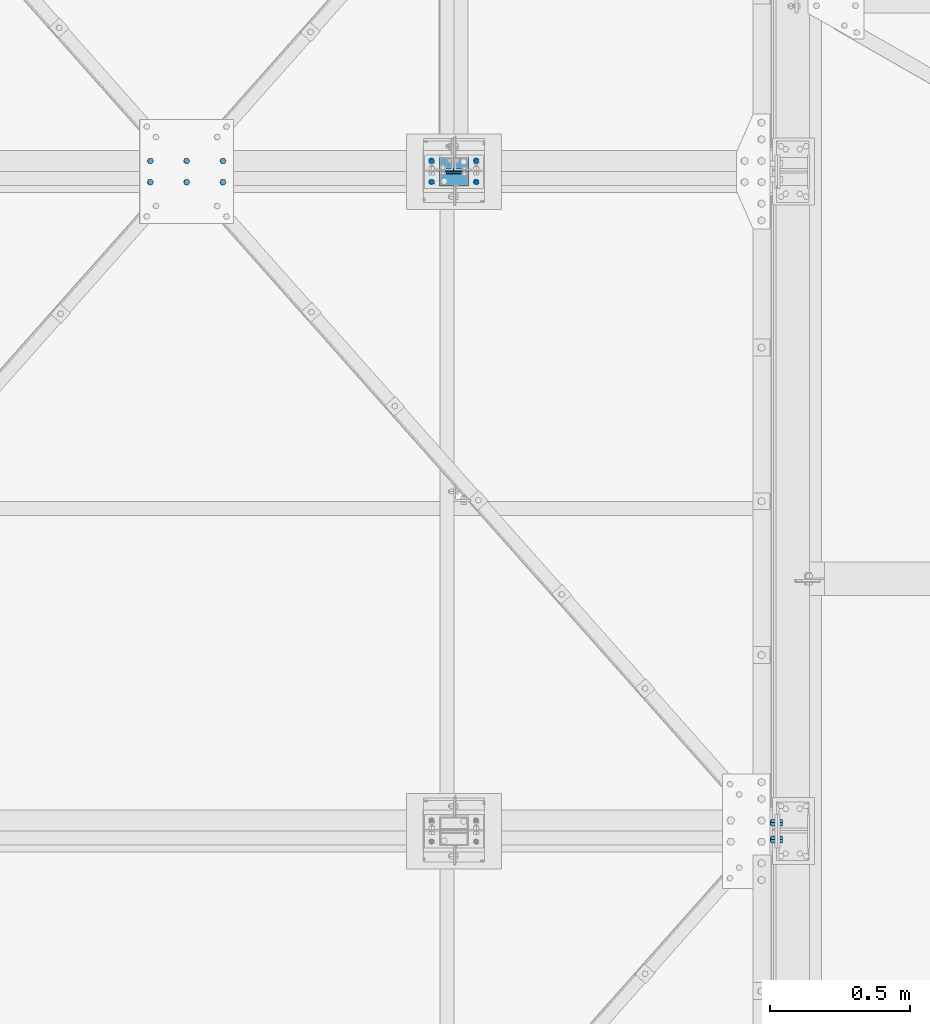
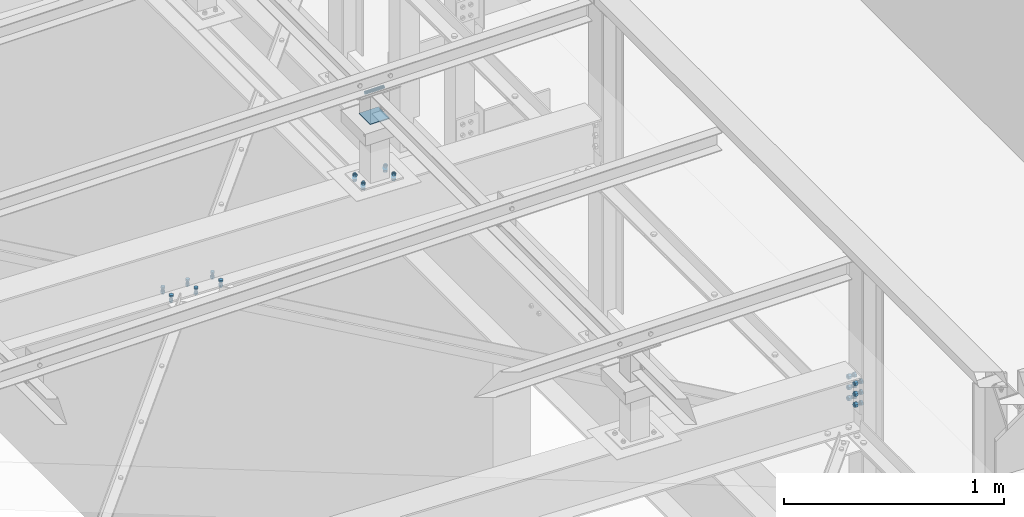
# One storey, part 359 of 3134: 6 mechanical fasteners, 4 elements without a shape of their own.
"""IFC2X3 building model written with IfcOpenShell, lengths in millimetres."""

from ifc_helpers import new_model, si_unit, frame, origin_with_axes, place, context, subcontext, project, spatial, faceted_brep, source, transform, mapped, material, type_object, element, aggregate, save


model = new_model("IFC2X3")

# Units and contexts
model_context = context("Model", 3, precision=1e-05, world=origin_with_axes())
body_context = subcontext(model_context, "Body", "Model", "MODEL_VIEW")
ifc_project = project(units=[si_unit("LENGTHUNIT", "METRE", prefix="MILLI"), si_unit("AREAUNIT", "SQUARE_METRE"), si_unit("VOLUMEUNIT", "CUBIC_METRE"), si_unit("MASSUNIT", "GRAM", prefix="KILO"), si_unit("TIMEUNIT", "SECOND"), si_unit("PLANEANGLEUNIT", "RADIAN"), si_unit("SOLIDANGLEUNIT", "STERADIAN"), si_unit("THERMODYNAMICTEMPERATUREUNIT", "DEGREE_CELSIUS"), si_unit("LUMINOUSINTENSITYUNIT", "LUMEN")], contexts=[model_context])

# Site, building, storey
site_placement = place(None, origin_with_axes())
site = spatial("IfcSite", under=ifc_project, at=site_placement, CompositionType="ELEMENT")
building_placement = place(site_placement, origin_with_axes())
building = spatial("IfcBuilding", under=site, at=building_placement, Name="Undefined", CompositionType="ELEMENT")
storey_placement = place(building_placement, origin_with_axes())
storey = spatial("IfcBuildingStorey", under=building, at=storey_placement, Name="Undefined", CompositionType="ELEMENT", Elevation=0.0)

# Assembly, mechanical fastener
assembly_1_placement = place(storey_placement, origin_with_axes())
assembly_1 = element("IfcElementAssembly", 1, at=assembly_1_placement, inside=storey, AssemblyPlace="NOTDEFINED", PredefinedType="RIGID_FRAME")
ifc_material_1 = material(Name="8.8")
mechanical_fastener_type = type_object("IfcMechanicalFastenerType", Name="Bolt assembly")
shared_shape_1 = source(origin_with_axes(), body_context, "Body", "Brep", [
    faceted_brep([(7.0, 13.0000253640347, 0.0), (6.06217782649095, 13.0000253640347, 3.50000000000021), (3.49999999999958, 13.0000253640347, 6.06217782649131), (-7.25435187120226e-13, 13.0000253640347, 7.0), (-3.50000000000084, 13.0000253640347, 6.06217782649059), (-6.06217782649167, 13.0000253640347, 3.49999999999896), (-7.0, 13.0000253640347, -1.45087037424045e-12), (-6.06217782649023, 13.0000253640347, -3.50000000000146), (-3.49999999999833, 13.0000253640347, -6.06217782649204), (2.1685340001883e-12, 13.0000253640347, -7.0), (3.50000000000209, 13.0000253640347, -6.06217782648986), (6.0621778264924, 13.0000253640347, -3.4999999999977), (6.0621778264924, 15.0999999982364, -3.4999999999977), (3.50000000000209, 15.0999999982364, -6.06217782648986), (2.1685340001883e-12, 15.0999999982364, -7.0), (-3.49999999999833, 15.0999999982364, -6.06217782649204), (-6.06217782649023, 15.0999999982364, -3.50000000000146), (-7.0, 15.0999999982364, -1.45087037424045e-12), (-6.06217782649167, 15.0999999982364, 3.49999999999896), (-3.50000000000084, 15.0999999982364, 6.06217782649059), (-7.25435187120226e-13, 15.0999999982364, 7.0), (3.49999999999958, 15.0999999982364, 6.06217782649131), (6.06217782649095, 15.0999999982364, 3.50000000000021), (7.0, 15.0999999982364, 0.0)], [[[0, 1, 2, 3, 4, 5, 6, 7, 8, 9, 10, 11]], [[12, 13, 14, 15, 16, 17, 18, 19, 20, 21, 22, 23]], [[0, 23, 22, 1]], [[1, 22, 21, 2]], [[2, 21, 20, 3]], [[3, 20, 19, 4]], [[4, 19, 18, 5]], [[5, 18, 17, 6]], [[6, 17, 16, 7]], [[7, 16, 15, 8]], [[8, 15, 14, 9]], [[9, 14, 13, 10]], [[10, 13, 12, 11]], [[11, 12, 23, 0]]]),
])
mechanical_fastener_1_placement = place(assembly_1_placement, frame((70599.3451187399, 17128.0, 5332.4572055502), z_axis=(-0.99951962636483, 0.0, 0.0309922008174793), x_axis=(0.0, -1.0, 0.0)))
mechanical_fastener_1 = element("IfcMechanicalFastener", 2, at=mechanical_fastener_1_placement, type_object=mechanical_fastener_type, material=ifc_material_1, Name="Bolt assembly", NominalDiameter=12.0, NominalLength=2.0, context=body_context, shape_type="MappedRepresentation", body=[
    mapped(shared_shape_1, transform((0.0, -5.32963895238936e-10, -79.9999999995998))),
    mapped(shared_shape_1, transform((76.0, -5.32963895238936e-10, -79.9999999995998))),
    mapped(shared_shape_1, transform((0.0, 5.3114490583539e-10, 79.9999999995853))),
    mapped(shared_shape_1, transform((76.0, 5.3114490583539e-10, 79.9999999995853))),
])
aggregate(assembly_1, [mechanical_fastener_1])

# Assembly, mechanical fasteners
assembly_2_placement = place(storey_placement, origin_with_axes())
assembly_2 = element("IfcElementAssembly", 3, at=assembly_2_placement, inside=storey, AssemblyPlace="NOTDEFINED", PredefinedType="RIGID_FRAME")
shared_shape_2 = source(origin_with_axes(), body_context, "Body", "Brep", [
    faceted_brep([(9.0, -50.0, 0.0), (7.79422863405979, -50.0, 4.50000000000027), (4.49999999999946, -50.0, 7.79422863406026), (-9.3270238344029e-13, -50.0, 9.0), (-4.50000000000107, -50.0, 7.79422863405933), (-7.79422863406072, -50.0, 4.49999999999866), (-9.0, -50.0, -1.86540476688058e-12), (-7.79422863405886, -50.0, -4.50000000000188), (-4.49999999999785, -50.0, -7.79422863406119), (2.78811514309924e-12, -50.0, -9.0), (4.50000000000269, -50.0, -7.7942286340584), (7.79422863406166, -50.0, -4.49999999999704), (7.79422863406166, 50.1, -4.49999999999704), (4.50000000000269, 50.1, -7.7942286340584), (2.78811514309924e-12, 50.1, -9.0), (-4.49999999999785, 50.1, -7.79422863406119), (-7.79422863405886, 50.1, -4.50000000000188), (-9.0, 50.1, -1.86540476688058e-12), (-7.79422863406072, 50.1, 4.49999999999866), (-4.50000000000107, 50.1, 7.79422863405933), (-9.3270238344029e-13, 50.1, 9.0), (4.49999999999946, 50.1, 7.79422863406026), (7.79422863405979, 50.1, 4.50000000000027), (9.0, 50.1, 0.0)], [[[0, 1, 2, 3, 4, 5, 6, 7, 8, 9, 10, 11]], [[12, 13, 14, 15, 16, 17, 18, 19, 20, 21, 22, 23]], [[0, 23, 22, 1]], [[1, 22, 21, 2]], [[2, 21, 20, 3]], [[3, 20, 19, 4]], [[4, 19, 18, 5]], [[5, 18, 17, 6]], [[6, 17, 16, 7]], [[7, 16, 15, 8]], [[8, 15, 14, 9]], [[9, 14, 13, 10]], [[10, 13, 12, 11]], [[11, 12, 23, 0]]]),
])
mechanical_fastener_2_placement = place(assembly_2_placement, frame((70600.0, 17090.0, 5830.0), z_axis=(0.0, 1.0, 0.0), x_axis=(0.0, 0.0, 1.0)))
mechanical_fastener_2 = element("IfcMechanicalFastener", 4, at=mechanical_fastener_2_placement, type_object=mechanical_fastener_type, material=ifc_material_1, Name="Bolt assembly", NominalDiameter=16.0, NominalLength=100.0, context=body_context, shape_type="MappedRepresentation", body=[
    mapped(shared_shape_2, transform((0.0, 0.0, 0.0))),
])
ifc_material_2 = material(Name="6.8")
shared_shape_3 = source(origin_with_axes(), body_context, "Body", "Brep", [
    faceted_brep([(51.5, 1.36424205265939e-12, 50.0), (51.3858192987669, 1.36424205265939e-12, 50.5740251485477), (51.0606601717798, 1.36424205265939e-12, 51.0606601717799), (50.5740251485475, 1.36424205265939e-12, 51.385819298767), (-50.0000000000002, 1.36424205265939e-12, 51.5), (-50.7500000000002, 1.36424205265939e-12, 51.2990381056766), (-51.2990381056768, 1.36424205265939e-12, 50.7499999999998), (-51.5, 1.36424205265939e-12, 49.9999999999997), (-51.5, 1.36424205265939e-12, -50.0000000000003), (-51.2990381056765, 1.36424205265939e-12, -50.7500000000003), (-50.7499999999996, 1.36424205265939e-12, -51.2990381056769), (-49.9999999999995, 1.36424205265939e-12, -51.5), (50.0000000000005, 1.36424205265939e-12, -51.5), (50.7500000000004, 1.36424205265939e-12, -51.2990381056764), (51.2990381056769, 1.36424205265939e-12, -50.7499999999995), (51.5, 1.36424205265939e-12, -49.9999999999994), (51.5, 5.10000000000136, -49.9999999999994), (51.2990381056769, 5.10000000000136, -50.7499999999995), (50.7500000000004, 5.10000000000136, -51.2990381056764), (50.0000000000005, 5.10000000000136, -51.5), (-49.9999999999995, 5.10000000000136, -51.5), (-50.7499999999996, 5.10000000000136, -51.2990381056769), (-51.2990381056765, 5.10000000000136, -50.7500000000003), (-51.5, 5.10000000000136, -50.0000000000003), (-51.5, 5.10000000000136, 49.9999999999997), (-51.2990381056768, 5.10000000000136, 50.7499999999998), (-50.7500000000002, 5.10000000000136, 51.2990381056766), (-50.0000000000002, 5.10000000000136, 51.5), (50.5740251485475, 5.10000000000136, 51.385819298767), (51.0606601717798, 5.10000000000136, 51.0606601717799), (51.3858192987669, 5.10000000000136, 50.5740251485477), (51.5, 5.10000000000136, 50.0)], [[[0, 1, 2, 3, 4, 5, 6, 7, 8, 9, 10, 11, 12, 13, 14, 15]], [[16, 17, 18, 19, 20, 21, 22, 23, 24, 25, 26, 27, 28, 29, 30, 31]], [[0, 31, 30, 1]], [[1, 30, 29, 2]], [[2, 29, 28, 3]], [[3, 28, 27, 4]], [[4, 27, 26, 5]], [[5, 26, 25, 6]], [[6, 25, 24, 7]], [[7, 24, 23, 8]], [[8, 23, 22, 9]], [[9, 22, 21, 10]], [[10, 21, 20, 11]], [[11, 20, 19, 12]], [[12, 19, 18, 13]], [[13, 18, 17, 14]], [[14, 17, 16, 15]], [[15, 16, 31, 0]]]),
])
mechanical_fastener_3_placement = place(assembly_2_placement, frame((70600.0, 17090.0, 5687.16), z_axis=(0.0, -1.0, 0.0), x_axis=(-1.0, 0.0, 0.0)))
mechanical_fastener_3 = element("IfcMechanicalFastener", 5, at=mechanical_fastener_3_placement, type_object=mechanical_fastener_type, material=ifc_material_2, Name="Bolt assembly", NominalDiameter=10.0, NominalLength=5.0, context=body_context, shape_type="MappedRepresentation", body=[
    mapped(shared_shape_3, transform((0.0, 0.0, 0.0))),
])
aggregate(assembly_2, [mechanical_fastener_2, mechanical_fastener_3])

# Assembly, mechanical fastener
assembly_3_placement = place(storey_placement, origin_with_axes())
assembly_3 = element("IfcElementAssembly", 6, at=assembly_3_placement, inside=storey, Name="HEA120", AssemblyPlace="NOTDEFINED", PredefinedType="RIGID_FRAME")
shared_shape_4 = source(origin_with_axes(), body_context, "Body", "Brep", [
    faceted_brep([(13.856406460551, -18.0, 0.0), (6.92820323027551, -18.0, 12.0), (-6.92820323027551, -18.0, 12.0), (-13.856406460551, -18.0, 1.69692038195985e-15), (-6.92820323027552, -18.0, -12.0), (6.9282032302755, -18.0, -12.0), (6.9282032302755, -7.99999766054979, -12.0), (-6.92820323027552, -7.99999766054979, -12.0), (-13.856406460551, -7.99999766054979, 1.69692038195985e-15), (-6.92820323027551, -7.99999766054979, 12.0), (6.92820323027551, -7.99999766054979, 12.0), (13.856406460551, -7.99999766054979, 0.0), (8.0, -8.0, 0.0), (6.92820323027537, -8.0, 4.00000000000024), (3.99999999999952, -8.0, 6.92820323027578), (-8.29068785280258e-13, -8.0, 8.0), (-4.00000000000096, -8.0, 6.92820323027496), (-6.9282032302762, -8.0, 3.99999999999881), (-8.0, -8.0, -1.65813757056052e-12), (-6.92820323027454, -8.0, -4.00000000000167), (-3.99999999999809, -8.0, -6.92820323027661), (2.47832457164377e-12, -8.0, -8.0), (4.00000000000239, -8.0, -6.92820323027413), (6.92820323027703, -8.0, -3.99999999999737), (6.92820323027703, 27.0, -3.99999999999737), (4.00000000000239, 27.0, -6.92820323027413), (2.47832457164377e-12, 27.0, -8.0), (-3.99999999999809, 27.0, -6.92820323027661), (-6.92820323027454, 27.0, -4.00000000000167), (-8.0, 27.0, -1.65813757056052e-12), (-6.9282032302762, 27.0, 3.99999999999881), (-4.00000000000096, 27.0, 6.92820323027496), (-8.29068785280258e-13, 27.0, 8.0), (3.99999999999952, 27.0, 6.92820323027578), (6.92820323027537, 27.0, 4.00000000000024), (8.0, 27.0, 0.0), (13.856406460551, 9.99999995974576, 0.0), (6.92820323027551, 9.99999995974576, 12.0), (-6.92820323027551, 9.99999995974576, 12.0), (-13.856406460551, 9.99999995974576, 1.69692038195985e-15), (-6.92820323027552, 9.99999995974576, -12.0), (6.9282032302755, 9.99999995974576, -12.0), (6.9282032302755, 22.9999913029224, -12.0), (-6.92820323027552, 22.9999913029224, -12.0), (-13.856406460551, 22.9999913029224, 1.69692038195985e-15), (-6.92820323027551, 22.9999913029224, 12.0), (6.92820323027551, 22.9999913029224, 12.0), (13.856406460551, 22.9999913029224, 0.0)], [[[0, 1, 2, 3, 4, 5]], [[6, 7, 8, 9, 10, 11]], [[0, 11, 10, 1]], [[1, 10, 9, 2]], [[2, 9, 8, 3]], [[3, 8, 7, 4]], [[4, 7, 6, 5]], [[5, 6, 11, 0]], [[12, 13, 14, 15, 16, 17, 18, 19, 20, 21, 22, 23]], [[24, 25, 26, 27, 28, 29, 30, 31, 32, 33, 34, 35]], [[12, 35, 34, 13]], [[13, 34, 33, 14]], [[14, 33, 32, 15]], [[15, 32, 31, 16]], [[16, 31, 30, 17]], [[17, 30, 29, 18]], [[18, 29, 28, 19]], [[19, 28, 27, 20]], [[20, 27, 26, 21]], [[21, 26, 25, 22]], [[22, 25, 24, 23]], [[23, 24, 35, 12]], [[36, 37, 38, 39, 40, 41]], [[42, 43, 44, 45, 46, 47]], [[36, 47, 46, 37]], [[37, 46, 45, 38]], [[38, 45, 44, 39]], [[39, 44, 43, 40]], [[40, 43, 42, 41]], [[41, 42, 47, 36]]]),
    faceted_brep([(9.0, -0.1, 0.0), (7.79422863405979, -0.1, 4.50000000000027), (4.49999999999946, -0.1, 7.79422863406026), (-9.3270238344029e-13, -0.1, 9.0), (-4.50000000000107, -0.1, 7.79422863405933), (-7.79422863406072, -0.1, 4.49999999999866), (-9.0, -0.1, -1.86540476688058e-12), (-7.79422863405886, -0.1, -4.50000000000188), (-4.49999999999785, -0.1, -7.79422863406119), (2.78811514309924e-12, -0.1, -9.0), (4.50000000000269, -0.1, -7.7942286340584), (7.79422863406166, -0.1, -4.49999999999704), (7.79422863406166, 9.99999995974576, -4.49999999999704), (4.50000000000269, 9.99999995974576, -7.7942286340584), (2.78811514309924e-12, 9.99999995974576, -9.0), (-4.49999999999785, 9.99999995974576, -7.79422863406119), (-7.79422863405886, 9.99999995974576, -4.50000000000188), (-9.0, 9.99999995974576, -1.86540476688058e-12), (-7.79422863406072, 9.99999995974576, 4.49999999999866), (-4.50000000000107, 9.99999995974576, 7.79422863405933), (-9.3270238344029e-13, 9.99999995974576, 9.0), (4.49999999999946, 9.99999995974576, 7.79422863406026), (7.79422863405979, 9.99999995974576, 4.50000000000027), (9.0, 9.99999995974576, 0.0), (9.0, -7.9, 0.0), (7.79422863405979, -7.9, 4.50000000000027), (4.49999999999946, -7.9, 7.79422863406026), (-9.3270238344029e-13, -7.9, 9.0), (-4.50000000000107, -7.9, 7.79422863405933), (-7.79422863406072, -7.9, 4.49999999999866), (-9.0, -7.9, -1.86540476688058e-12), (-7.79422863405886, -7.9, -4.50000000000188), (-4.49999999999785, -7.9, -7.79422863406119), (2.78811514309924e-12, -7.9, -9.0), (4.50000000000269, -7.9, -7.7942286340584), (7.79422863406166, -7.9, -4.49999999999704), (7.79422863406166, 0.100000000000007, -4.49999999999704), (4.50000000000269, 0.100000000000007, -7.7942286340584), (2.78811514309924e-12, 0.100000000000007, -9.0), (-4.49999999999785, 0.100000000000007, -7.79422863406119), (-7.79422863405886, 0.100000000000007, -4.50000000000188), (-9.0, 0.100000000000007, -1.86540476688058e-12), (-7.79422863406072, 0.100000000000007, 4.49999999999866), (-4.50000000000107, 0.100000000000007, 7.79422863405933), (-9.3270238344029e-13, 0.100000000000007, 9.0), (4.49999999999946, 0.100000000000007, 7.79422863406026), (7.79422863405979, 0.100000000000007, 4.50000000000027), (9.0, 0.100000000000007, 0.0)], [[[0, 1, 2, 3, 4, 5, 6, 7, 8, 9, 10, 11]], [[12, 13, 14, 15, 16, 17, 18, 19, 20, 21, 22, 23]], [[0, 23, 22, 1]], [[1, 22, 21, 2]], [[2, 21, 20, 3]], [[3, 20, 19, 4]], [[4, 19, 18, 5]], [[5, 18, 17, 6]], [[6, 17, 16, 7]], [[7, 16, 15, 8]], [[8, 15, 14, 9]], [[9, 14, 13, 10]], [[10, 13, 12, 11]], [[11, 12, 23, 0]], [[24, 25, 26, 27, 28, 29, 30, 31, 32, 33, 34, 35]], [[36, 37, 38, 39, 40, 41, 42, 43, 44, 45, 46, 47]], [[24, 47, 46, 25]], [[25, 46, 45, 26]], [[26, 45, 44, 27]], [[27, 44, 43, 28]], [[28, 43, 42, 29]], [[29, 42, 41, 30]], [[30, 41, 40, 31]], [[31, 40, 39, 32]], [[32, 39, 38, 33]], [[33, 38, 37, 34]], [[34, 37, 36, 35]], [[35, 36, 47, 24]]]),
])
mechanical_fastener_4_placement = place(assembly_3_placement, frame((71758.0000000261, 14730.0, 5254.8605303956), z_axis=(0.0, 1.0, 0.0), x_axis=(0.0, 0.0, -1.0)))
mechanical_fastener_4 = element("IfcMechanicalFastener", 7, at=mechanical_fastener_4_placement, type_object=mechanical_fastener_type, material=ifc_material_1, Name="Bolt assembly", NominalDiameter=16.0, NominalLength=35.0, context=body_context, shape_type="MappedRepresentation", body=[
    mapped(shared_shape_4, transform((0.0, 4.54747350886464e-13, -30.0000000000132))),
    mapped(shared_shape_4, transform((60.0, 0.0, -30.0))),
    mapped(shared_shape_4, transform((120.0, 0.0, -30.0))),
    mapped(shared_shape_4, transform((0.0, 4.54747350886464e-13, 30.0000000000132))),
    mapped(shared_shape_4, transform((60.0, 0.0, 30.0))),
    mapped(shared_shape_4, transform((120.0, 0.0, 30.0))),
])
aggregate(assembly_3, [mechanical_fastener_4])

# Assembly, mechanical fasteners
assembly_4_placement = place(storey_placement, origin_with_axes())
assembly_4 = element("IfcElementAssembly", 8, at=assembly_4_placement, inside=storey, Name="300", AssemblyPlace="NOTDEFINED", PredefinedType="RIGID_FRAME")
shared_shape_5 = source(origin_with_axes(), body_context, "Body", "Brep", [
    faceted_brep([(10.9696551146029, -10.1955642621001, 0.0), (5.48482755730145, -10.1955642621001, 9.5), (-5.48482755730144, -10.1955642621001, 9.5), (-10.9696551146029, -10.1955642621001, 1.34339530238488e-15), (-5.48482755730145, -10.1955642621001, -9.5), (5.48482755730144, -10.1955642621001, -9.50000000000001), (5.48482755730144, -2.19556426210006, -9.50000000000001), (-5.48482755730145, -2.19556426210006, -9.5), (-10.9696551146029, -2.19556426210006, 1.34339530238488e-15), (-5.48482755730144, -2.19556426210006, 9.5), (5.48482755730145, -2.19556426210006, 9.5), (10.9696551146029, -2.19556426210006, 0.0), (6.0, -2.19556426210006, 0.0), (5.19615242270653, -2.19556426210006, 3.00000000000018), (2.99999999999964, -2.19556426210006, 5.19615242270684), (-6.21801588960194e-13, -2.19556426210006, 6.0), (-3.00000000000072, -2.19556426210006, 5.19615242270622), (-5.19615242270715, -2.19556426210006, 2.9999999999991), (-6.0, -2.19556426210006, -1.24360317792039e-12), (-5.19615242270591, -2.19556426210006, -3.00000000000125), (-2.99999999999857, -2.19556426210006, -5.19615242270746), (1.85874342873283e-12, -2.19556426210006, -6.0), (3.00000000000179, -2.19556426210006, -5.1961524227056), (5.19615242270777, -2.19556426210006, -2.99999999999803), (5.19615242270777, 32.8044357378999, -2.99999999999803), (3.00000000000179, 32.8044357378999, -5.1961524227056), (1.85874342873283e-12, 32.8044357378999, -6.0), (-2.99999999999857, 32.8044357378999, -5.19615242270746), (-5.19615242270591, 32.8044357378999, -3.00000000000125), (-6.0, 32.8044357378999, -1.24360317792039e-12), (-5.19615242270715, 32.8044357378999, 2.9999999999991), (-3.00000000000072, 32.8044357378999, 5.19615242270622), (-6.21801588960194e-13, 32.8044357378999, 6.0), (2.99999999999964, 32.8044357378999, 5.19615242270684), (5.19615242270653, 32.8044357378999, 3.00000000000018), (6.0, 32.8044357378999, 0.0), (10.9696551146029, 17.0008987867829, 0.0), (5.48482755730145, 17.0008987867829, 9.5), (-5.48482755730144, 17.0008987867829, 9.5), (-10.9696551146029, 17.0008987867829, 1.34339530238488e-15), (-5.48482755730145, 17.0008987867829, -9.5), (5.48482755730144, 17.0008987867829, -9.50000000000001), (5.48482755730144, 27.0008987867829, -9.50000000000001), (-5.48482755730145, 27.0008987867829, -9.5), (-10.9696551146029, 27.0008987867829, 1.34339530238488e-15), (-5.48482755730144, 27.0008987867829, 9.5), (5.48482755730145, 27.0008987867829, 9.5), (10.9696551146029, 27.0008987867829, 0.0)], [[[0, 1, 2, 3, 4, 5]], [[6, 7, 8, 9, 10, 11]], [[0, 11, 10, 1]], [[1, 10, 9, 2]], [[2, 9, 8, 3]], [[3, 8, 7, 4]], [[4, 7, 6, 5]], [[5, 6, 11, 0]], [[12, 13, 14, 15, 16, 17, 18, 19, 20, 21, 22, 23]], [[24, 25, 26, 27, 28, 29, 30, 31, 32, 33, 34, 35]], [[12, 35, 34, 13]], [[13, 34, 33, 14]], [[14, 33, 32, 15]], [[15, 32, 31, 16]], [[16, 31, 30, 17]], [[17, 30, 29, 18]], [[18, 29, 28, 19]], [[19, 28, 27, 20]], [[20, 27, 26, 21]], [[21, 26, 25, 22]], [[22, 25, 24, 23]], [[23, 24, 35, 12]], [[36, 37, 38, 39, 40, 41]], [[42, 43, 44, 45, 46, 47]], [[36, 47, 46, 37]], [[37, 46, 45, 38]], [[38, 45, 44, 39]], [[39, 44, 43, 40]], [[40, 43, 42, 41]], [[41, 42, 47, 36]]]),
    faceted_brep([(7.0, 8.90089878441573, 0.0), (6.06217782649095, 8.90089878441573, 3.50000000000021), (3.49999999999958, 8.90089878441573, 6.06217782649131), (-7.25435187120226e-13, 8.90089878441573, 7.0), (-3.50000000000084, 8.90089878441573, 6.06217782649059), (-6.06217782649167, 8.90089878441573, 3.49999999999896), (-7.0, 8.90089878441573, -1.45087037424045e-12), (-6.06217782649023, 8.90089878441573, -3.50000000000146), (-3.49999999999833, 8.90089878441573, -6.06217782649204), (2.1685340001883e-12, 8.90089878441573, -7.0), (3.50000000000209, 8.90089878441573, -6.06217782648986), (6.0621778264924, 8.90089878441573, -3.4999999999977), (6.0621778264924, 17.0008987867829, -3.4999999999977), (3.50000000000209, 17.0008987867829, -6.06217782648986), (2.1685340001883e-12, 17.0008987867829, -7.0), (-3.49999999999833, 17.0008987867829, -6.06217782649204), (-6.06217782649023, 17.0008987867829, -3.50000000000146), (-7.0, 17.0008987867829, -1.45087037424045e-12), (-6.06217782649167, 17.0008987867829, 3.49999999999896), (-3.50000000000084, 17.0008987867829, 6.06217782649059), (-7.25435187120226e-13, 17.0008987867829, 7.0), (3.49999999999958, 17.0008987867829, 6.06217782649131), (6.06217782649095, 17.0008987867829, 3.50000000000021), (7.0, 17.0008987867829, 0.0), (7.0, -2.09556426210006, 0.0), (6.06217782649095, -2.09556426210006, 3.50000000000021), (3.49999999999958, -2.09556426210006, 6.06217782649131), (-7.25435187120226e-13, -2.09556426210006, 7.0), (-3.50000000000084, -2.09556426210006, 6.06217782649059), (-6.06217782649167, -2.09556426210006, 3.49999999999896), (-7.0, -2.09556426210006, -1.45087037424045e-12), (-6.06217782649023, -2.09556426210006, -3.50000000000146), (-3.49999999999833, -2.09556426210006, -6.06217782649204), (2.1685340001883e-12, -2.09556426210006, -7.0), (3.50000000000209, -2.09556426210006, -6.06217782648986), (6.0621778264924, -2.09556426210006, -3.4999999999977), (6.0621778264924, 7.10443554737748, -3.4999999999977), (3.50000000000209, 7.10443554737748, -6.06217782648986), (2.1685340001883e-12, 7.10443554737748, -7.0), (-3.49999999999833, 7.10443554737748, -6.06217782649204), (-6.06217782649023, 7.10443554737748, -3.50000000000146), (-7.0, 7.10443554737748, -1.45087037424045e-12), (-6.06217782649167, 7.10443554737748, 3.49999999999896), (-3.50000000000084, 7.10443554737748, 6.06217782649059), (-7.25435187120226e-13, 7.10443554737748, 7.0), (3.49999999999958, 7.10443554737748, 6.06217782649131), (6.06217782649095, 7.10443554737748, 3.50000000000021), (7.0, 7.10443554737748, 0.0)], [[[0, 1, 2, 3, 4, 5, 6, 7, 8, 9, 10, 11]], [[12, 13, 14, 15, 16, 17, 18, 19, 20, 21, 22, 23]], [[0, 23, 22, 1]], [[1, 22, 21, 2]], [[2, 21, 20, 3]], [[3, 20, 19, 4]], [[4, 19, 18, 5]], [[5, 18, 17, 6]], [[6, 17, 16, 7]], [[7, 16, 15, 8]], [[8, 15, 14, 9]], [[9, 14, 13, 10]], [[10, 13, 12, 11]], [[11, 12, 23, 0]], [[24, 25, 26, 27, 28, 29, 30, 31, 32, 33, 34, 35]], [[36, 37, 38, 39, 40, 41, 42, 43, 44, 45, 46, 47]], [[24, 47, 46, 25]], [[25, 46, 45, 26]], [[26, 45, 44, 27]], [[27, 44, 43, 28]], [[28, 43, 42, 29]], [[29, 42, 41, 30]], [[30, 41, 40, 31]], [[31, 40, 39, 32]], [[32, 39, 38, 33]], [[33, 38, 37, 34]], [[34, 37, 36, 35]], [[35, 36, 47, 24]]]),
])
mechanical_fastener_5_placement = place(assembly_4_placement, frame((70599.5351187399, 17128.0, 5338.4572055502), z_axis=(-0.99951962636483, 0.0, 0.0309922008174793), x_axis=(0.0, -1.0, 0.0)))
mechanical_fastener_5 = element("IfcMechanicalFastener", 9, at=mechanical_fastener_5_placement, type_object=mechanical_fastener_type, material=ifc_material_1, Name="Bolt assembly", NominalDiameter=12.0, NominalLength=35.0, context=body_context, shape_type="MappedRepresentation", body=[
    mapped(shared_shape_5, transform((0.0, -5.32963895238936e-10, -79.9999999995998))),
    mapped(shared_shape_5, transform((76.0, -5.32963895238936e-10, -79.9999999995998))),
    mapped(shared_shape_5, transform((0.0, 5.3114490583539e-10, 79.9999999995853))),
    mapped(shared_shape_5, transform((76.0, 5.3114490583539e-10, 79.9999999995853))),
])
shared_shape_6 = source(origin_with_axes(), body_context, "Body", "Brep", [
    faceted_brep([(10.9696551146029, -21.2000017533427, 0.0), (5.48482755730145, -21.2000017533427, 9.5), (-5.48482755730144, -21.2000017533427, 9.5), (-10.9696551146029, -21.2000017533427, 1.34339530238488e-15), (-5.48482755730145, -21.2000017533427, -9.5), (5.48482755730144, -21.2000017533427, -9.50000000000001), (5.48482755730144, -13.2000017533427, -9.50000000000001), (-5.48482755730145, -13.2000017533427, -9.5), (-10.9696551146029, -13.2000017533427, 1.34339530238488e-15), (-5.48482755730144, -13.2000017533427, 9.5), (5.48482755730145, -13.2000017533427, 9.5), (10.9696551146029, -13.2000017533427, 0.0), (6.0, -13.2000017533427, 0.0), (5.19615242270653, -13.2000017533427, 3.00000000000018), (2.99999999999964, -13.2000017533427, 5.19615242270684), (-6.21801588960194e-13, -13.2000017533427, 6.0), (-3.00000000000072, -13.2000017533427, 5.19615242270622), (-5.19615242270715, -13.2000017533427, 2.9999999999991), (-6.0, -13.2000017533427, -1.24360317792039e-12), (-5.19615242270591, -13.2000017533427, -3.00000000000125), (-2.99999999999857, -13.2000017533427, -5.19615242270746), (1.85874342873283e-12, -13.2000017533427, -6.0), (3.00000000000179, -13.2000017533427, -5.1961524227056), (5.19615242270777, -13.2000017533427, -2.99999999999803), (5.19615242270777, 21.7999982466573, -2.99999999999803), (3.00000000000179, 21.7999982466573, -5.1961524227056), (1.85874342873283e-12, 21.7999982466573, -6.0), (-2.99999999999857, 21.7999982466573, -5.19615242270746), (-5.19615242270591, 21.7999982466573, -3.00000000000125), (-6.0, 21.7999982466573, -1.24360317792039e-12), (-5.19615242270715, 21.7999982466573, 2.9999999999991), (-3.00000000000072, 21.7999982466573, 5.19615242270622), (-6.21801588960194e-13, 21.7999982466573, 6.0), (2.99999999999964, 21.7999982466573, 5.19615242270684), (5.19615242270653, 21.7999982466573, 3.00000000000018), (6.0, 21.7999982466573, 0.0), (10.9696551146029, 4.00000000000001, 0.0), (5.48482755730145, 4.00000000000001, 9.5), (-5.48482755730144, 4.00000000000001, 9.5), (-10.9696551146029, 4.00000000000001, 1.34339530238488e-15), (-5.48482755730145, 4.00000000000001, -9.5), (5.48482755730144, 4.00000000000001, -9.50000000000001), (5.48482755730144, 14.0, -9.50000000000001), (-5.48482755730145, 14.0, -9.5), (-10.9696551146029, 14.0, 1.34339530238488e-15), (-5.48482755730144, 14.0, 9.5), (5.48482755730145, 14.0, 9.5), (10.9696551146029, 14.0, 0.0)], [[[0, 1, 2, 3, 4, 5]], [[6, 7, 8, 9, 10, 11]], [[0, 11, 10, 1]], [[1, 10, 9, 2]], [[2, 9, 8, 3]], [[3, 8, 7, 4]], [[4, 7, 6, 5]], [[5, 6, 11, 0]], [[12, 13, 14, 15, 16, 17, 18, 19, 20, 21, 22, 23]], [[24, 25, 26, 27, 28, 29, 30, 31, 32, 33, 34, 35]], [[12, 35, 34, 13]], [[13, 34, 33, 14]], [[14, 33, 32, 15]], [[15, 32, 31, 16]], [[16, 31, 30, 17]], [[17, 30, 29, 18]], [[18, 29, 28, 19]], [[19, 28, 27, 20]], [[20, 27, 26, 21]], [[21, 26, 25, 22]], [[22, 25, 24, 23]], [[23, 24, 35, 12]], [[36, 37, 38, 39, 40, 41]], [[42, 43, 44, 45, 46, 47]], [[36, 47, 46, 37]], [[37, 46, 45, 38]], [[38, 45, 44, 39]], [[39, 44, 43, 40]], [[40, 43, 42, 41]], [[41, 42, 47, 36]]]),
    faceted_brep([(7.0, -4.09998541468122, 0.0), (6.06217782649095, -4.09998541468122, 3.50000000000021), (3.49999999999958, -4.09998541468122, 6.06217782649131), (-7.25435187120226e-13, -4.09998541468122, 7.0), (-3.50000000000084, -4.09998541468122, 6.06217782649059), (-6.06217782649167, -4.09998541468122, 3.49999999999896), (-7.0, -4.09998541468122, -1.45087037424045e-12), (-6.06217782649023, -4.09998541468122, -3.50000000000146), (-3.49999999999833, -4.09998541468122, -6.06217782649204), (2.1685340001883e-12, -4.09998541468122, -7.0), (3.50000000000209, -4.09998541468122, -6.06217782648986), (6.0621778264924, -4.09998541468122, -3.4999999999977), (6.0621778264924, 4.00000000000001, -3.4999999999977), (3.50000000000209, 4.00000000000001, -6.06217782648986), (2.1685340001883e-12, 4.00000000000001, -7.0), (-3.49999999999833, 4.00000000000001, -6.06217782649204), (-6.06217782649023, 4.00000000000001, -3.50000000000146), (-7.0, 4.00000000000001, -1.45087037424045e-12), (-6.06217782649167, 4.00000000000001, 3.49999999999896), (-3.50000000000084, 4.00000000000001, 6.06217782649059), (-7.25435187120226e-13, 4.00000000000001, 7.0), (3.49999999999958, 4.00000000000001, 6.06217782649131), (6.06217782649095, 4.00000000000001, 3.50000000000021), (7.0, 4.00000000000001, 0.0), (7.0, -13.1000017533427, 0.0), (6.06217782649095, -13.1000017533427, 3.50000000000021), (3.49999999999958, -13.1000017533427, 6.06217782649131), (-7.25435187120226e-13, -13.1000017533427, 7.0), (-3.50000000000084, -13.1000017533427, 6.06217782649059), (-6.06217782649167, -13.1000017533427, 3.49999999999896), (-7.0, -13.1000017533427, -1.45087037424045e-12), (-6.06217782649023, -13.1000017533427, -3.50000000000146), (-3.49999999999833, -13.1000017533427, -6.06217782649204), (2.1685340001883e-12, -13.1000017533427, -7.0), (3.50000000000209, -13.1000017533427, -6.06217782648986), (6.0621778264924, -13.1000017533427, -3.4999999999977), (6.0621778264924, -3.9, -3.4999999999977), (3.50000000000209, -3.9, -6.06217782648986), (2.1685340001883e-12, -3.9, -7.0), (-3.49999999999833, -3.9, -6.06217782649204), (-6.06217782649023, -3.9, -3.50000000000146), (-7.0, -3.9, -1.45087037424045e-12), (-6.06217782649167, -3.9, 3.49999999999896), (-3.50000000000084, -3.9, 6.06217782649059), (-7.25435187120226e-13, -3.9, 7.0), (3.49999999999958, -3.9, 6.06217782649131), (6.06217782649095, -3.9, 3.50000000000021), (7.0, -3.9, 0.0)], [[[0, 1, 2, 3, 4, 5, 6, 7, 8, 9, 10, 11]], [[12, 13, 14, 15, 16, 17, 18, 19, 20, 21, 22, 23]], [[0, 23, 22, 1]], [[1, 22, 21, 2]], [[2, 21, 20, 3]], [[3, 20, 19, 4]], [[4, 19, 18, 5]], [[5, 18, 17, 6]], [[6, 17, 16, 7]], [[7, 16, 15, 8]], [[8, 15, 14, 9]], [[9, 14, 13, 10]], [[10, 13, 12, 11]], [[11, 12, 23, 0]], [[24, 25, 26, 27, 28, 29, 30, 31, 32, 33, 34, 35]], [[36, 37, 38, 39, 40, 41, 42, 43, 44, 45, 46, 47]], [[24, 47, 46, 25]], [[25, 46, 45, 26]], [[26, 45, 44, 27]], [[27, 44, 43, 28]], [[28, 43, 42, 29]], [[29, 42, 41, 30]], [[30, 41, 40, 31]], [[31, 40, 39, 32]], [[32, 39, 38, 33]], [[33, 38, 37, 34]], [[34, 37, 36, 35]], [[35, 36, 47, 24]]]),
])
mechanical_fastener_6_placement = place(assembly_4_placement, frame((69773.2344527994, 17089.9999999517, 5069.93516701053), z_axis=(0.0, -1.0, 0.0), x_axis=(-0.999519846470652, 0.0, 0.0309851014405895)))
mechanical_fastener_6 = element("IfcMechanicalFastener", 10, at=mechanical_fastener_6_placement, type_object=mechanical_fastener_type, material=ifc_material_1, Name="Bolt assembly", NominalDiameter=12.0, NominalLength=35.0, context=body_context, shape_type="MappedRepresentation", body=[
    mapped(shared_shape_6, transform((0.0, 0.0, -38.0))),
    mapped(shared_shape_6, transform((129.999999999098, -1.0113581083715e-09, -37.9999999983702))),
    mapped(shared_shape_6, transform((259.999999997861, -2.11548467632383e-09, -37.9999999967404))),
    mapped(shared_shape_6, transform((0.0, 0.0, 38.0))),
    mapped(shared_shape_6, transform((129.999999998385, -1.19325704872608e-09, 38.0000000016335))),
    mapped(shared_shape_6, transform((259.999999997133, -2.29920260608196e-09, 38.0000000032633))),
])
aggregate(assembly_4, [mechanical_fastener_5, mechanical_fastener_6])

save(model, "model.ifc")
